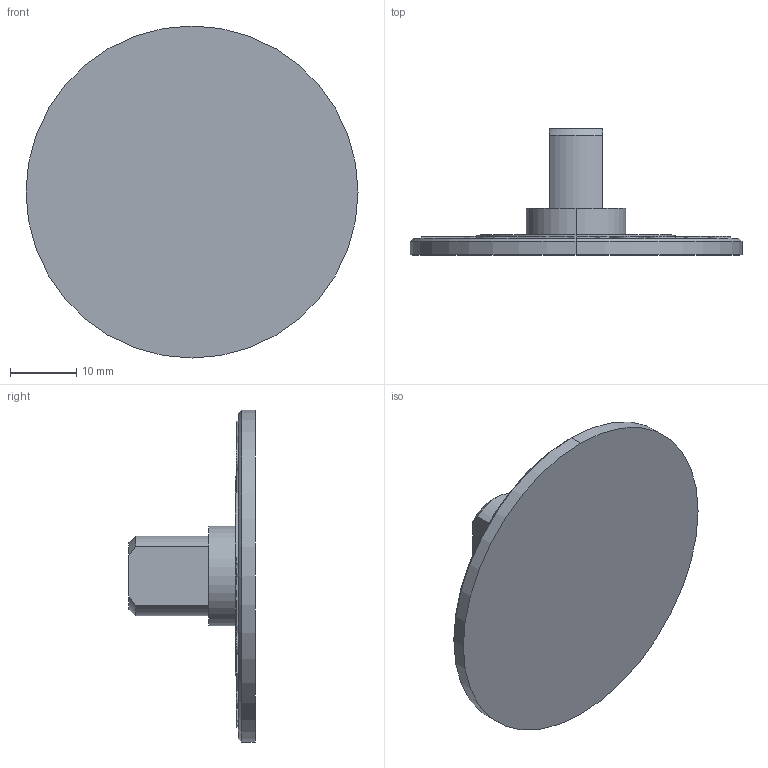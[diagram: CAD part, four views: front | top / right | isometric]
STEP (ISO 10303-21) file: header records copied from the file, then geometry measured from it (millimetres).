
FILE_DESCRIPTION (( 'STEP AP203' ), '1' );
FILE_NAME ('Žæ•t‘¤BH500.STEP', '2022-05-30T00:48:44', ( '' ), ( '' ), 'SwSTEP 2.0', 'SolidWorks 2017', '' );
FILE_SCHEMA (( 'CONFIG_CONTROL_DESIGN' ));
Length unit declared in the file: millimetre
Products named in the file (1): 取付側BH500
Bounding box: 50 x 19 x 50 mm (x, y, z)
Volume: 7066.5 mm3; surface area: 5065.6 mm2
Topology: 1 solids, 1 shells, 282 faces, 756 edges, 503 vertices
Faces by surface type: plane 158, bspline 110, cylinder 9, cone 5
Entity records: 13036 total; most frequent: CARTESIAN_POINT 6640, ORIENTED_EDGE 1512, DIRECTION 901, EDGE_CURVE 756, VECTOR 509, LINE 509, VERTEX_POINT 503, EDGE_LOOP 309
